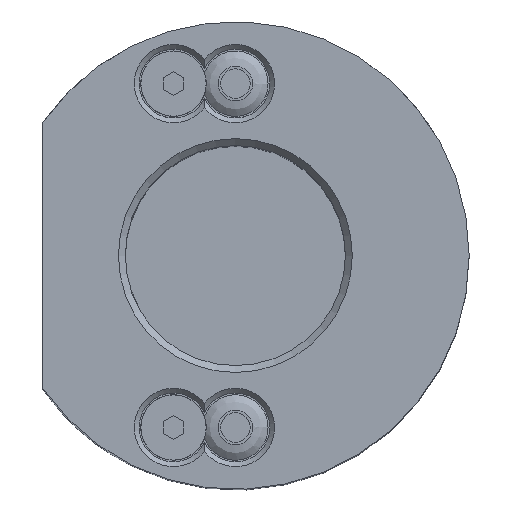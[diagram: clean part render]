
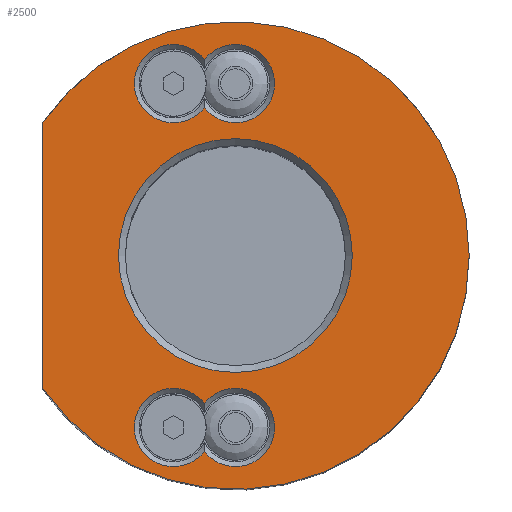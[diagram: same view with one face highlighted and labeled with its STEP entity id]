
A CAD part, top view. The second image highlights one B-rep face of the part: STEP entity #2500.
In plain terms, the highlighted planar face has unit normal (0, 0, 1).
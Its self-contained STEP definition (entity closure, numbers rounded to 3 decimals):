
#104=FACE_BOUND('',#809,.T.);
#105=FACE_BOUND('',#810,.T.);
#106=FACE_BOUND('',#811,.T.);
#211=LINE('',#3961,#442);
#442=VECTOR('',#3178,10.);
#650=FACE_OUTER_BOUND('',#808,.T.);
#808=EDGE_LOOP('',(#1836,#1837));
#809=EDGE_LOOP('',(#1838,#1839));
#810=EDGE_LOOP('',(#1840,#1841));
#811=EDGE_LOOP('',(#1842));
#967=CIRCLE('',#2734,17.);
#970=CIRCLE('',#2738,34.);
#971=CIRCLE('',#2739,5.7);
#972=CIRCLE('',#2740,5.7);
#973=CIRCLE('',#2741,5.7);
#974=CIRCLE('',#2742,5.7);
#1137=VERTEX_POINT('',#3951);
#1140=VERTEX_POINT('',#3959);
#1141=VERTEX_POINT('',#3960);
#1142=VERTEX_POINT('',#3963);
#1143=VERTEX_POINT('',#3964);
#1144=VERTEX_POINT('',#3967);
#1145=VERTEX_POINT('',#3968);
#1401=EDGE_CURVE('',#1137,#1137,#967,.T.);
#1405=EDGE_CURVE('',#1140,#1141,#211,.T.);
#1406=EDGE_CURVE('',#1140,#1141,#970,.T.);
#1407=EDGE_CURVE('',#1142,#1143,#971,.T.);
#1408=EDGE_CURVE('',#1143,#1142,#972,.T.);
#1409=EDGE_CURVE('',#1144,#1145,#973,.T.);
#1410=EDGE_CURVE('',#1145,#1144,#974,.T.);
#1836=ORIENTED_EDGE('',*,*,#1405,.T.);
#1837=ORIENTED_EDGE('',*,*,#1406,.F.);
#1838=ORIENTED_EDGE('',*,*,#1407,.F.);
#1839=ORIENTED_EDGE('',*,*,#1408,.F.);
#1840=ORIENTED_EDGE('',*,*,#1409,.F.);
#1841=ORIENTED_EDGE('',*,*,#1410,.F.);
#1842=ORIENTED_EDGE('',*,*,#1401,.F.);
#2379=PLANE('',#2737);
#2500=ADVANCED_FACE('',(#650,#104,#105,#106),#2379,.T.);
#2734=AXIS2_PLACEMENT_3D('',#3952,#3169,#3170);
#2737=AXIS2_PLACEMENT_3D('',#3958,#3176,#3177);
#2738=AXIS2_PLACEMENT_3D('',#3962,#3179,#3180);
#2739=AXIS2_PLACEMENT_3D('',#3965,#3181,#3182);
#2740=AXIS2_PLACEMENT_3D('',#3966,#3183,#3184);
#2741=AXIS2_PLACEMENT_3D('',#3969,#3185,#3186);
#2742=AXIS2_PLACEMENT_3D('',#3970,#3187,#3188);
#3169=DIRECTION('center_axis',(0.,0.,1.));
#3170=DIRECTION('ref_axis',(0.,1.,0.));
#3176=DIRECTION('center_axis',(0.,0.,1.));
#3177=DIRECTION('ref_axis',(1.,0.,0.));
#3178=DIRECTION('',(0.,-1.,0.));
#3179=DIRECTION('center_axis',(0.,0.,-1.));
#3180=DIRECTION('ref_axis',(1.,0.,0.));
#3181=DIRECTION('center_axis',(0.,0.,1.));
#3182=DIRECTION('ref_axis',(-1.,0.,0.));
#3183=DIRECTION('center_axis',(0.,0.,1.));
#3184=DIRECTION('ref_axis',(1.,0.,0.));
#3185=DIRECTION('center_axis',(0.,0.,1.));
#3186=DIRECTION('ref_axis',(1.,0.,0.));
#3187=DIRECTION('center_axis',(0.,0.,1.));
#3188=DIRECTION('ref_axis',(-1.,0.,0.));
#3951=CARTESIAN_POINT('',(0.,-17.,150.));
#3952=CARTESIAN_POINT('Origin',(0.,0.,150.));
#3958=CARTESIAN_POINT('Origin',(0.,-34.,150.));
#3959=CARTESIAN_POINT('',(-28.,19.287,150.));
#3960=CARTESIAN_POINT('',(-28.,-19.287,150.));
#3961=CARTESIAN_POINT('',(-28.,-17.,150.));
#3962=CARTESIAN_POINT('Origin',(0.,0.,150.));
#3963=CARTESIAN_POINT('',(-4.5,-21.501,150.));
#3964=CARTESIAN_POINT('',(-4.5,-28.499,150.));
#3965=CARTESIAN_POINT('Origin',(-9.,-25.,150.));
#3966=CARTESIAN_POINT('Origin',(0.,-25.,150.));
#3967=CARTESIAN_POINT('',(-4.5,21.501,150.));
#3968=CARTESIAN_POINT('',(-4.5,28.499,150.));
#3969=CARTESIAN_POINT('Origin',(0.,25.,150.));
#3970=CARTESIAN_POINT('Origin',(-9.,25.,150.));
